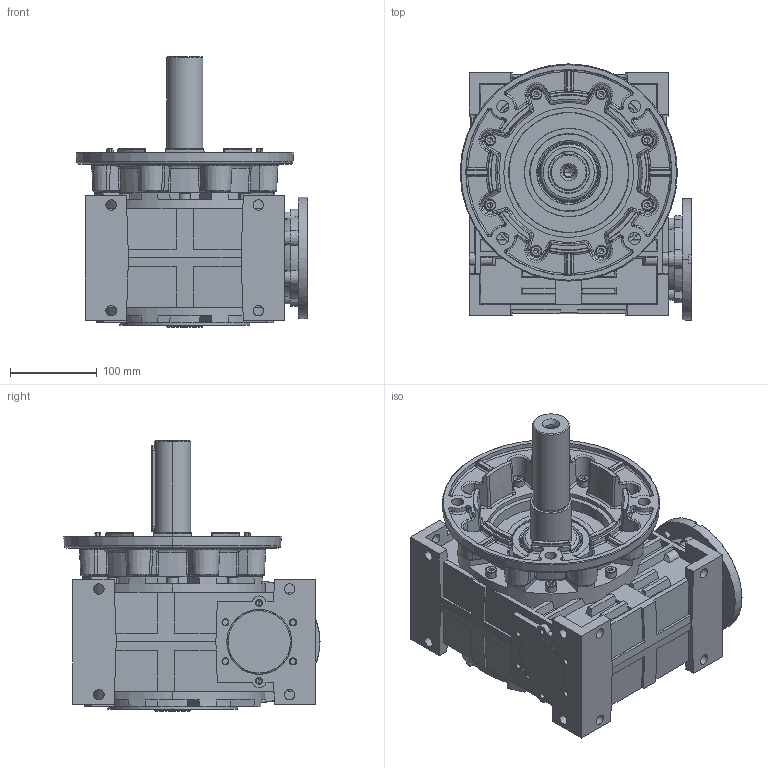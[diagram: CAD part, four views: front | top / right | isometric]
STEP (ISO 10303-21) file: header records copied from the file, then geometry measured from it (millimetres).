
FILE_DESCRIPTION (( 'STEP AP203' ), '1' );
FILE_NAME ('MR-100_140-24-K250_2-WJ_2-3D.STEP', '2023-09-29T07:07:20', ( '' ), ( '' ), 'SwSTEP 2.0', 'SolidWorks 2022', '' );
FILE_SCHEMA (( 'CONFIG_CONTROL_DESIGN' ));
Products named in the file (1): MR-100_140-24-K250_2-WJ_2-3D
Bounding box: 267.35 x 295.57 x 312 mm (x, y, z)
Volume: 8620133.2 mm3; surface area: 597184.9 mm2
Topology: 1 solids, 34 shells, 2398 faces, 5951 edges, 3660 vertices
Faces by surface type: plane 911, cylinder 436, cone 431, bspline 368, torus 252
Entity records: 85005 total; most frequent: CARTESIAN_POINT 30330, ORIENTED_EDGE 11758, DIRECTION 11101, EDGE_CURVE 5879, AXIS2_PLACEMENT_3D 4416, VERTEX_POINT 3660, EDGE_LOOP 2595, ADVANCED_FACE 2398
